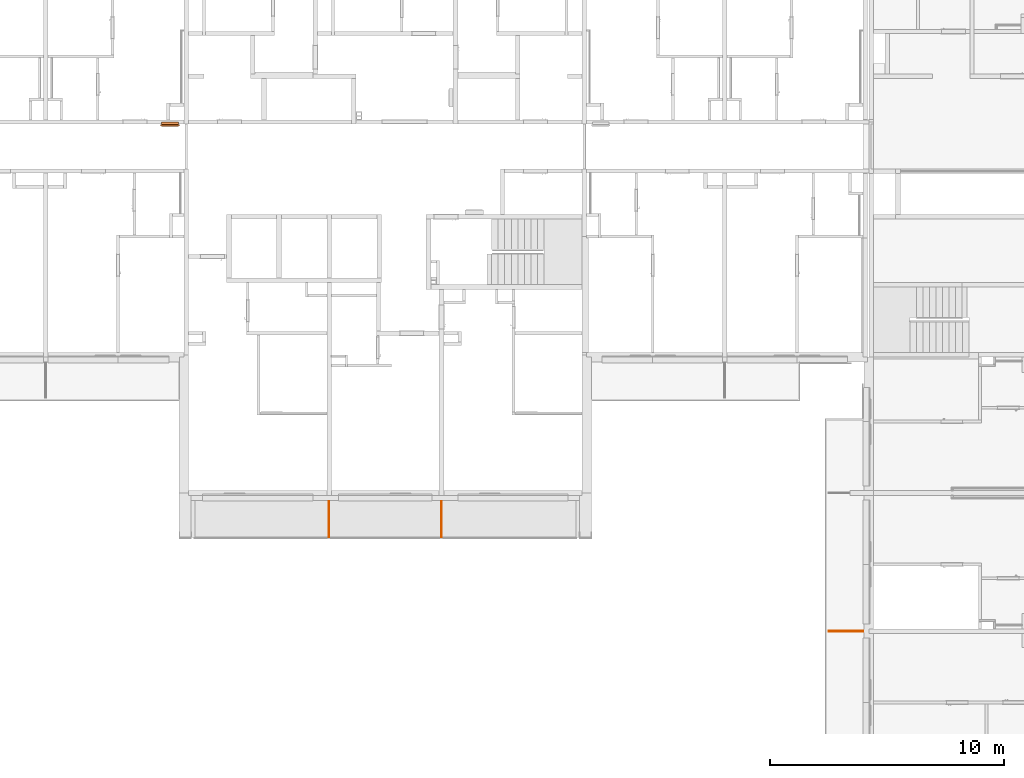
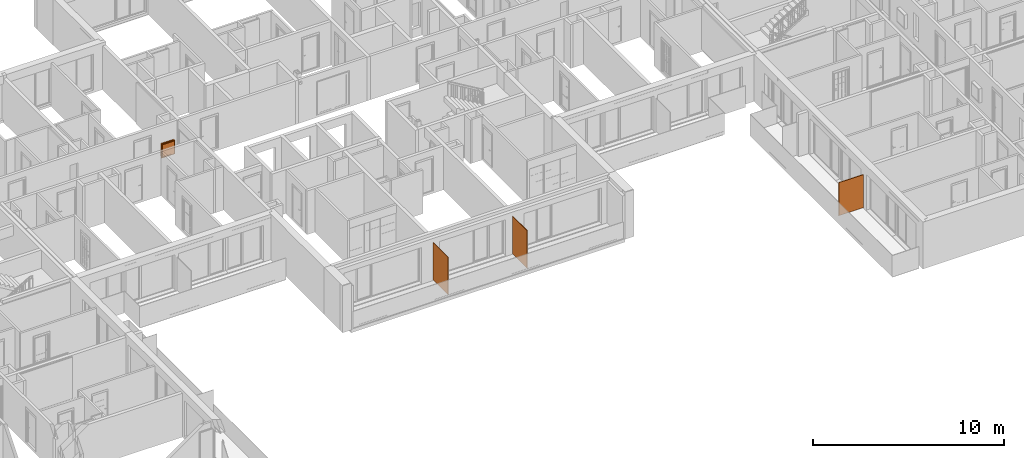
# One storey, part 16 of 64: 4 proxies.
"""IFC2X3 building model written with IfcOpenShell, lengths in millimetres."""

from ifc_helpers import new_model, entity, si_unit, converted_unit, derived_unit, money_unit, direction, frame, origin_with_axes, place, context, subcontext, project, spatial, polyline, outline, extrude, faceted_brep, source, transform, mapped, material, type_object, element, save


model = new_model("IFC2X3")

# Units and contexts
model_context = context("Model", 3, precision=0.01, world=origin_with_axes(), true_north=direction((0.34421633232, 0.938890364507)))
body_context = subcontext(model_context, "Body", "Model", "MODEL_VIEW")
ifc_project = project(units=[si_unit("LENGTHUNIT", "METRE", prefix="MILLI"), si_unit("AREAUNIT", "SQUARE_METRE"), si_unit("VOLUMEUNIT", "CUBIC_METRE"), converted_unit("PLANEANGLEUNIT", "DEGREE", entity("IfcPlaneAngleMeasure", 0.0174532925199), si_unit("PLANEANGLEUNIT", "RADIAN"), dimensions=[0, 0, 0, 0, 0, 0, 0]), si_unit("SOLIDANGLEUNIT", "STERADIAN"), money_unit("USD"), converted_unit("TIMEUNIT", "Year", entity("IfcTimeMeasure", 31556926.0), si_unit("TIMEUNIT", "SECOND"), dimensions=[0, 0, 1, 0, 0, 0, 0]), si_unit("MASSUNIT", "GRAM", prefix="KILO"), si_unit("THERMODYNAMICTEMPERATUREUNIT", "DEGREE_CELSIUS"), si_unit("LUMINOUSINTENSITYUNIT", "LUMEN"), si_unit("ENERGYUNIT", "JOULE", prefix="MEGA"), derived_unit("THERMALCONDUCTANCEUNIT", [(si_unit("POWERUNIT", "WATT"), 1), (si_unit("LENGTHUNIT", "METRE"), -1), (si_unit("THERMODYNAMICTEMPERATUREUNIT", "KELVIN"), -1)]), derived_unit("SPECIFICHEATCAPACITYUNIT", [(si_unit("ENERGYUNIT", "JOULE"), 1), (si_unit("MASSUNIT", "GRAM", prefix="KILO"), -1), (si_unit("THERMODYNAMICTEMPERATUREUNIT", "KELVIN"), -1)]), derived_unit("MASSDENSITYUNIT", [(si_unit("MASSUNIT", "GRAM", prefix="KILO"), 1), (si_unit("VOLUMEUNIT", "CUBIC_METRE"), -1)])], contexts=[model_context])

# Site, building, storey
site_placement = place(None, origin_with_axes())
site = spatial("IfcSite", under=ifc_project, at=site_placement, Name="USTRONIE MORSKIE", CompositionType="ELEMENT")
building_placement = place(site_placement, origin_with_axes())
building = spatial("IfcBuilding", under=site, at=building_placement, Name="Budynek", CompositionType="ELEMENT")
storey_placement = place(building_placement, frame((0.0, 0.0, 7000.0), z_axis=(0.0, 0.0, 1.0), x_axis=(1.0, 0.0, 0.0)))
storey = spatial("IfcBuildingStorey", under=building, at=storey_placement, Name="PIĘTRO 2", CompositionType="ELEMENT", Elevation=7000.0)

# Proxies
ifc_material = material(Name="Woda")
building_element_proxy_type_1 = type_object("IfcBuildingElementProxyType", Name="Woda 30", PredefinedType="NOTDEFINED")
for number, where, z_axis, x_axis, name in (
    (1, (390217.920919, 720651.199036, 20.0), (0.0, 0.0, 1.0), (0.0, -1.0, 0.0), "Œciana-007"),
    (2, (385417.920919, 720651.199036, 20.0), (0.0, 0.0, 1.0), (0.0, -1.0, 0.0), "Œciana-007"),
):
    element("IfcBuildingElementProxy", number, at=place(storey_placement, frame(where, z_axis=z_axis, x_axis=x_axis)), inside=storey, type_object=building_element_proxy_type_1, material=ifc_material, Name=name, context=body_context, shape_type="SweptSolid", body=[
        extrude(outline(polyline([(0.0, -15.0), (1550.0, -15.0), (1550.0, 15.0), (0.0, 15.0), (0.0, -15.0)])), origin_with_axes(), (0.0, 0.0, 1.0), 2400.0),
    ])
proxy_1_placement = place(storey_placement, frame((408237.884527, 715101.199004, 20.0), z_axis=(0.0, 0.0, 1.0), x_axis=(-0.99999999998, -6.33272493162e-06, 0.0)))
element("IfcBuildingElementProxy", 3, at=proxy_1_placement, inside=storey, type_object=building_element_proxy_type_1, material=ifc_material, Name="Œciana-007", context=body_context, shape_type="SweptSolid", body=[
    extrude(outline(polyline([(0.0, -14.9999999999), (1490.00000003, -14.9999999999), (1490.00000003, 15.0000000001), (0.0, 15.0000000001), (0.0, -14.9999999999)])), origin_with_axes(), (0.0, 0.0, 1.0), 2120.0),
])
building_element_proxy_type_2 = type_object("IfcBuildingElementProxyType", Name="Skrzynka P-Poż 23", PredefinedType="NOTDEFINED")
shared_shape = source(origin_with_axes(), body_context, "Body", "Brep", [
    faceted_brep([(0.0, 100.0, 0.0), (0.0, 20.0, 0.0), (-800.0, 20.0, 0.0), (-800.0, 100.0, 0.0), (0.0, 100.0, 900.0), (0.0, 20.0, 900.0), (-800.0, 20.0, 900.0), (-60.0, 20.0, 60.0), (-740.0, 20.0, 60.0), (-740.0, 20.0, 840.0), (-60.0, 20.0, 840.0), (-800.0, 100.0, 900.0), (-60.0, 100.0, 60.0), (-60.0, 100.0, 840.0), (-740.0, 100.0, 840.0), (-740.0, 100.0, 60.0)], [[[0, 1, 2, 3]], [[4, 5, 1, 0]], [[1, 5, 6, 2], [7, 8, 9, 10]], [[3, 2, 6, 11]], [[0, 3, 11, 4], [12, 13, 14, 15]], [[11, 6, 5, 4]], [[15, 8, 7, 12]], [[14, 9, 8, 15]], [[13, 10, 9, 14]], [[12, 7, 10, 13]]]),
    faceted_brep([(-40.0, 20.0, 40.0), (-40.0, 0.0, 40.0), (-760.0, 0.0, 40.0), (-760.0, 20.0, 40.0), (-40.0, 20.0, 860.0), (-40.0, 0.0, 860.0), (-760.0, 0.0, 860.0), (-80.0, 0.0, 80.0), (-720.0, 0.0, 80.0), (-720.0, 0.0, 820.0), (-80.0, 0.0, 820.0), (-760.0, 20.0, 860.0), (-80.0, 20.0, 80.0), (-80.0, 20.0, 820.0), (-720.0, 20.0, 820.0), (-720.0, 20.0, 80.0)], [[[0, 1, 2, 3]], [[4, 5, 1, 0]], [[1, 5, 6, 2], [7, 8, 9, 10]], [[3, 2, 6, 11]], [[0, 3, 11, 4], [12, 13, 14, 15]], [[11, 6, 5, 4]], [[15, 8, 7, 12]], [[14, 9, 8, 15]], [[13, 10, 9, 14]], [[12, 7, 10, 13]]]),
    faceted_brep([(-40.0, 180.0, 40.0), (-40.0, 100.0, 40.0), (-760.0, 100.0, 40.0), (-760.0, 180.0, 40.0), (-40.0, 180.0, 860.0), (-40.0, 100.0, 860.0), (-760.0, 100.0, 860.0), (-60.0, 100.0, 60.0), (-740.0, 100.0, 60.0), (-740.0, 100.0, 840.0), (-60.0, 100.0, 840.0), (-760.0, 180.0, 860.0), (-60.0, 180.0, 60.0), (-60.0, 180.0, 840.0), (-740.0, 180.0, 840.0), (-740.0, 180.0, 60.0)], [[[0, 1, 2, 3]], [[4, 5, 1, 0]], [[1, 5, 6, 2], [7, 8, 9, 10]], [[3, 2, 6, 11]], [[0, 3, 11, 4], [12, 13, 14, 15]], [[11, 6, 5, 4]], [[15, 8, 7, 12]], [[14, 9, 8, 15]], [[13, 10, 9, 14]], [[12, 7, 10, 13]]]),
    faceted_brep([(-40.0, 200.0, 40.0), (-40.0, 180.0, 40.0), (-760.0, 180.0, 40.0), (-760.0, 200.0, 40.0), (-40.0, 200.0, 860.0), (-40.0, 180.0, 860.0), (-760.0, 180.0, 860.0), (-760.0, 200.0, 860.0)], [[[0, 1, 2, 3]], [[4, 5, 1, 0]], [[1, 5, 6, 2]], [[3, 2, 6, 7]], [[0, 3, 7, 4]], [[7, 6, 5, 4]]]),
    faceted_brep([(-80.0, 15.0, 80.0), (-80.0, 5.0, 80.0), (-720.0, 5.0, 80.0), (-720.0, 15.0, 80.0), (-80.0, 15.0, 820.0), (-80.0, 5.0, 820.0), (-720.0, 5.0, 820.0), (-720.0, 15.0, 820.0)], [[[0, 1, 2, 3]], [[4, 5, 1, 0]], [[1, 5, 6, 2]], [[3, 2, 6, 7]], [[0, 3, 7, 4]], [[7, 6, 5, 4]]]),
    faceted_brep([(-749.659258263, 0.0, 447.411809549), (-750.0, 0.0, 450.0), (-749.659258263, 0.0, 452.588190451), (-748.660254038, 0.0, 455.0), (-747.071067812, 0.0, 457.071067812), (-745.0, 0.0, 458.660254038), (-742.588190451, 0.0, 459.659258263), (-740.0, 0.0, 460.0), (-737.411809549, 0.0, 459.659258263), (-735.0, 0.0, 458.660254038), (-732.928932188, 0.0, 457.071067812), (-731.339745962, 0.0, 455.0), (-730.340741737, 0.0, 452.588190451), (-730.0, 0.0, 450.0), (-730.340741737, 0.0, 447.411809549), (-731.339745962, 0.0, 445.0), (-732.928932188, 0.0, 442.928932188), (-735.0, 0.0, 441.339745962), (-737.411809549, 0.0, 440.340741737), (-740.0, 0.0, 440.0), (-742.588190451, 0.0, 440.340741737), (-745.0, 0.0, 441.339745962), (-747.071067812, 0.0, 442.928932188), (-748.660254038, 0.0, 445.0), (-749.659258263, -2.0, 447.411809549), (-750.0, -2.0, 450.0), (-749.659258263, -2.0, 452.588190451), (-748.660254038, -2.0, 455.0), (-747.071067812, -2.0, 457.071067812), (-745.0, -2.0, 458.660254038), (-742.588190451, -2.0, 459.659258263), (-740.0, -2.0, 460.0), (-737.411809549, -2.0, 459.659258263), (-735.0, -2.0, 458.660254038), (-732.928932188, -2.0, 457.071067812), (-731.339745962, -2.0, 455.0), (-730.340741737, -2.0, 452.588190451), (-730.0, -2.0, 450.0), (-730.340741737, -2.0, 447.411809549), (-731.339745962, -2.0, 445.0), (-732.928932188, -2.0, 442.928932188), (-735.0, -2.0, 441.339745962), (-737.411809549, -2.0, 440.340741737), (-740.0, -2.0, 440.0), (-742.588190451, -2.0, 440.340741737), (-745.0, -2.0, 441.339745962), (-747.071067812, -2.0, 442.928932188), (-748.660254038, -2.0, 445.0)], [[[0, 1, 2, 3, 4, 5, 6, 7, 8, 9, 10, 11, 12, 13, 14, 15, 16, 17, 18, 19, 20, 21, 22, 23]], [[0, 24, 25, 1]], [[1, 25, 26, 2]], [[2, 26, 27, 3]], [[3, 27, 28, 4]], [[4, 28, 29, 5]], [[5, 29, 30, 6]], [[6, 30, 31, 7]], [[7, 31, 32, 8]], [[8, 32, 33, 9]], [[9, 33, 34, 10]], [[10, 34, 35, 11]], [[11, 35, 36, 12]], [[12, 36, 37, 13]], [[13, 37, 38, 14]], [[14, 38, 39, 15]], [[15, 39, 40, 16]], [[16, 40, 41, 17]], [[17, 41, 42, 18]], [[18, 42, 43, 19]], [[19, 43, 44, 20]], [[20, 44, 45, 21]], [[21, 45, 46, 22]], [[22, 46, 47, 23]], [[23, 47, 24, 0]], [[24, 47, 46, 45, 44, 43, 42, 41, 40, 39, 38, 37, 36, 35, 34, 33, 32, 31, 30, 29, 28, 27, 26, 25]]]),
    faceted_brep([(-39.8977774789, 16.2235428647, 80.0), (-40.0, 17.0, 80.0), (-39.8977774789, 17.7764571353, 80.0), (-39.5980762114, 18.5, 80.0), (-39.1213203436, 19.1213203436, 80.0), (-38.5, 19.5980762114, 80.0), (-37.7764571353, 19.8977774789, 80.0), (-37.0, 20.0, 80.0), (-36.2235428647, 19.8977774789, 80.0), (-35.5, 19.5980762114, 80.0), (-34.8786796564, 19.1213203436, 80.0), (-34.4019237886, 18.5, 80.0), (-34.1022225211, 17.7764571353, 80.0), (-34.0, 17.0, 80.0), (-34.1022225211, 16.2235428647, 80.0), (-34.4019237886, 15.5, 80.0), (-34.8786796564, 14.8786796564, 80.0), (-35.5, 14.4019237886, 80.0), (-36.2235428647, 14.1022225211, 80.0), (-37.0, 14.0, 80.0), (-37.7764571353, 14.1022225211, 80.0), (-38.5, 14.4019237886, 80.0), (-39.1213203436, 14.8786796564, 80.0), (-39.5980762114, 15.5, 80.0), (-39.8977774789, 16.2235428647, 120.0), (-40.0, 17.0, 120.0), (-39.8977774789, 17.7764571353, 120.0), (-39.5980762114, 18.5, 120.0), (-39.1213203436, 19.1213203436, 120.0), (-38.5, 19.5980762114, 120.0), (-37.7764571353, 19.8977774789, 120.0), (-37.0, 20.0, 120.0), (-36.2235428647, 19.8977774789, 120.0), (-35.5, 19.5980762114, 120.0), (-34.8786796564, 19.1213203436, 120.0), (-34.4019237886, 18.5, 120.0), (-34.1022225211, 17.7764571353, 120.0), (-34.0, 17.0, 120.0), (-34.1022225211, 16.2235428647, 120.0), (-34.4019237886, 15.5, 120.0), (-34.8786796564, 14.8786796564, 120.0), (-35.5, 14.4019237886, 120.0), (-36.2235428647, 14.1022225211, 120.0), (-37.0, 14.0, 120.0), (-37.7764571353, 14.1022225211, 120.0), (-38.5, 14.4019237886, 120.0), (-39.1213203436, 14.8786796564, 120.0), (-39.5980762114, 15.5, 120.0)], [[[0, 1, 2, 3, 4, 5, 6, 7, 8, 9, 10, 11, 12, 13, 14, 15, 16, 17, 18, 19, 20, 21, 22, 23]], [[0, 24, 25, 1]], [[1, 25, 26, 2]], [[2, 26, 27, 3]], [[3, 27, 28, 4]], [[4, 28, 29, 5]], [[5, 29, 30, 6]], [[6, 30, 31, 7]], [[7, 31, 32, 8]], [[8, 32, 33, 9]], [[9, 33, 34, 10]], [[10, 34, 35, 11]], [[11, 35, 36, 12]], [[12, 36, 37, 13]], [[13, 37, 38, 14]], [[14, 38, 39, 15]], [[15, 39, 40, 16]], [[16, 40, 41, 17]], [[17, 41, 42, 18]], [[18, 42, 43, 19]], [[19, 43, 44, 20]], [[20, 44, 45, 21]], [[21, 45, 46, 22]], [[22, 46, 47, 23]], [[23, 47, 24, 0]], [[24, 47, 46, 45, 44, 43, 42, 41, 40, 39, 38, 37, 36, 35, 34, 33, 32, 31, 30, 29, 28, 27, 26, 25]]]),
    faceted_brep([(-39.8977774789, 16.2235428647, 780.0), (-40.0, 17.0, 780.0), (-39.8977774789, 17.7764571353, 780.0), (-39.5980762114, 18.5, 780.0), (-39.1213203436, 19.1213203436, 780.0), (-38.5, 19.5980762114, 780.0), (-37.7764571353, 19.8977774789, 780.0), (-37.0, 20.0, 780.0), (-36.2235428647, 19.8977774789, 780.0), (-35.5, 19.5980762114, 780.0), (-34.8786796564, 19.1213203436, 780.0), (-34.4019237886, 18.5, 780.0), (-34.1022225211, 17.7764571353, 780.0), (-34.0, 17.0, 780.0), (-34.1022225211, 16.2235428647, 780.0), (-34.4019237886, 15.5, 780.0), (-34.8786796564, 14.8786796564, 780.0), (-35.5, 14.4019237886, 780.0), (-36.2235428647, 14.1022225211, 780.0), (-37.0, 14.0, 780.0), (-37.7764571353, 14.1022225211, 780.0), (-38.5, 14.4019237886, 780.0), (-39.1213203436, 14.8786796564, 780.0), (-39.5980762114, 15.5, 780.0), (-39.8977774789, 16.2235428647, 820.0), (-40.0, 17.0, 820.0), (-39.8977774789, 17.7764571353, 820.0), (-39.5980762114, 18.5, 820.0), (-39.1213203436, 19.1213203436, 820.0), (-38.5, 19.5980762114, 820.0), (-37.7764571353, 19.8977774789, 820.0), (-37.0, 20.0, 820.0), (-36.2235428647, 19.8977774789, 820.0), (-35.5, 19.5980762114, 820.0), (-34.8786796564, 19.1213203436, 820.0), (-34.4019237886, 18.5, 820.0), (-34.1022225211, 17.7764571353, 820.0), (-34.0, 17.0, 820.0), (-34.1022225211, 16.2235428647, 820.0), (-34.4019237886, 15.5, 820.0), (-34.8786796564, 14.8786796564, 820.0), (-35.5, 14.4019237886, 820.0), (-36.2235428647, 14.1022225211, 820.0), (-37.0, 14.0, 820.0), (-37.7764571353, 14.1022225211, 820.0), (-38.5, 14.4019237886, 820.0), (-39.1213203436, 14.8786796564, 820.0), (-39.5980762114, 15.5, 820.0)], [[[0, 1, 2, 3, 4, 5, 6, 7, 8, 9, 10, 11, 12, 13, 14, 15, 16, 17, 18, 19, 20, 21, 22, 23]], [[0, 24, 25, 1]], [[1, 25, 26, 2]], [[2, 26, 27, 3]], [[3, 27, 28, 4]], [[4, 28, 29, 5]], [[5, 29, 30, 6]], [[6, 30, 31, 7]], [[7, 31, 32, 8]], [[8, 32, 33, 9]], [[9, 33, 34, 10]], [[10, 34, 35, 11]], [[11, 35, 36, 12]], [[12, 36, 37, 13]], [[13, 37, 38, 14]], [[14, 38, 39, 15]], [[15, 39, 40, 16]], [[16, 40, 41, 17]], [[17, 41, 42, 18]], [[18, 42, 43, 19]], [[19, 43, 44, 20]], [[20, 44, 45, 21]], [[21, 45, 46, 22]], [[22, 46, 47, 23]], [[23, 47, 24, 0]], [[24, 47, 46, 45, 44, 43, 42, 41, 40, 39, 38, 37, 36, 35, 34, 33, 32, 31, 30, 29, 28, 27, 26, 25]]]),
])
proxy_2_placement = place(storey_placement, frame((379017.937739, 736651.199036, 600.0), z_axis=(0.0, 0.0, 1.0), x_axis=(1.0, 0.0, 0.0)))
element("IfcBuildingElementProxy", 4, at=proxy_2_placement, inside=storey, type_object=building_element_proxy_type_2, Name="OB3", context=body_context, shape_type="MappedRepresentation", body=[
    mapped(shared_shape, transform((0.0, 0.0, 0.0))),
])

save(model, "model.ifc")
